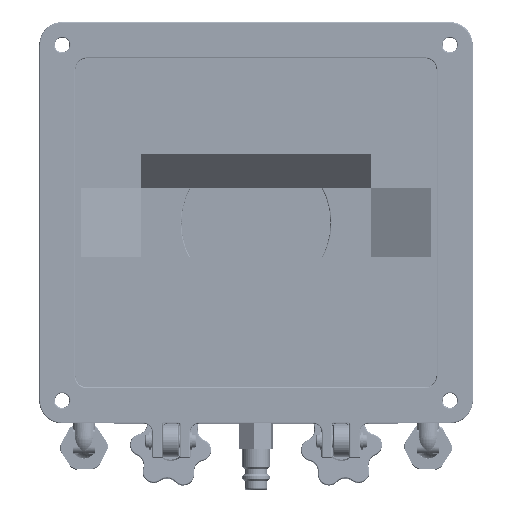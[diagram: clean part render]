
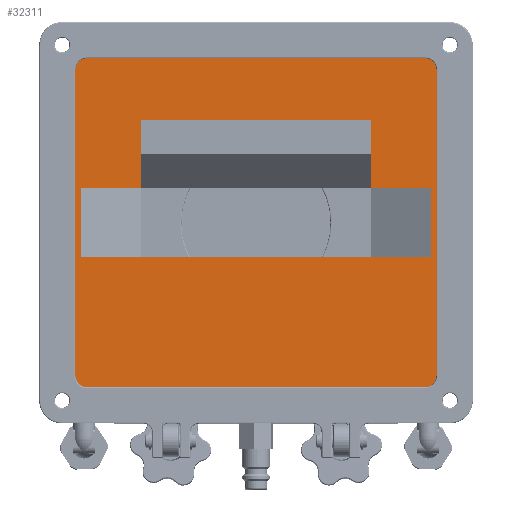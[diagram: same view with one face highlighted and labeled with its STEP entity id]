
A CAD part, front view. The second image highlights one B-rep face of the part: STEP entity #32311.
In plain terms, the highlighted planar face has unit normal (0, -1, 0) as drawn and (0, 1, 0) by its records, which use the part's own axes.
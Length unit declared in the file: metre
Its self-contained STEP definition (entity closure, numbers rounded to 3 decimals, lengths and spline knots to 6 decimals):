
#185 = VECTOR ( 'NONE', #83141, 1. ) ;
#330 = ORIENTED_EDGE ( 'NONE', *, *, #104241, .T. ) ;
#357 = DIRECTION ( 'NONE',  ( 0., 0., -1. ) ) ;
#1579 = ORIENTED_EDGE ( 'NONE', *, *, #102773, .T. ) ;
#1657 = CARTESIAN_POINT ( 'NONE',  ( 0.0787, 0.015, 0.0667 ) ) ;
#2658 = ORIENTED_EDGE ( 'NONE', *, *, #61648, .T. ) ;
#5970 = CARTESIAN_POINT ( 'NONE',  ( 0.0737, 0.015, -0.0667 ) ) ;
#5988 = DIRECTION ( 'NONE',  ( 0., 0., -1. ) ) ;
#6054 = VECTOR ( 'NONE', #47967, 1. ) ;
#7302 = CARTESIAN_POINT ( 'NONE',  ( 0.0502, 0.015, 0.045 ) ) ;
#8457 = CARTESIAN_POINT ( 'NONE',  ( -0.0502, 0.015, 0.015 ) ) ;
#10265 = VERTEX_POINT ( 'NONE', #57871 ) ;
#11173 = LINE ( 'NONE', #68384, #60027 ) ;
#11656 = CARTESIAN_POINT ( 'NONE',  ( -0.0737, 0.015, 0.0717 ) ) ;
#13897 = FACE_BOUND ( 'NONE', #79775, .T. ) ;
#14838 = DIRECTION ( 'NONE',  ( 0., 0., -1. ) ) ;
#15397 = AXIS2_PLACEMENT_3D ( 'NONE', #122961, #64497, #5988 ) ;
#15794 = DIRECTION ( 'NONE',  ( 0., 0., 1. ) ) ;
#22461 = ORIENTED_EDGE ( 'NONE', *, *, #29166, .F. ) ;
#24674 = CARTESIAN_POINT ( 'NONE',  ( -0.076181, 0.015, -0.0667 ) ) ;
#24996 = LINE ( 'NONE', #35601, #125850 ) ;
#26108 = LINE ( 'NONE', #122023, #185 ) ;
#27232 = LINE ( 'NONE', #30252, #76149 ) ;
#27480 = CARTESIAN_POINT ( 'NONE',  ( -0.0502, 0.015, 0.015 ) ) ;
#27553 = PLANE ( 'NONE',  #90800 ) ;
#28936 = DIRECTION ( 'NONE',  ( -1., 0., 0. ) ) ;
#29001 = VERTEX_POINT ( 'NONE', #60853 ) ;
#29166 = EDGE_CURVE ( 'NONE', #54301, #10265, #24996, .T. ) ;
#30252 = CARTESIAN_POINT ( 'NONE',  ( 0.0737, 0.015, -0.0717 ) ) ;
#30294 = CARTESIAN_POINT ( 'NONE',  ( 0.0787, 0.015, -0.0667 ) ) ;
#32311 = ADVANCED_FACE ( 'NONE', ( #13897, #65862 ), #27553, .T. ) ;
#32346 = AXIS2_PLACEMENT_3D ( 'NONE', #117353, #58828, #357 ) ;
#32424 = ORIENTED_EDGE ( 'NONE', *, *, #51022, .F. ) ;
#33436 = EDGE_LOOP ( 'NONE', ( #330, #78887, #45906, #95104, #124937, #86927, #2658, #93016 ) ) ;
#35182 = CARTESIAN_POINT ( 'NONE',  ( 0.076181, 0.015, 0.015 ) ) ;
#35601 = CARTESIAN_POINT ( 'NONE',  ( -0.0502, 0.015, 0.015 ) ) ;
#37375 = DIRECTION ( 'NONE',  ( 0., 0., 1. ) ) ;
#38552 = DIRECTION ( 'NONE',  ( 0., 1., 0. ) ) ;
#40085 = DIRECTION ( 'NONE',  ( -1., 0., 0. ) ) ;
#42467 = EDGE_CURVE ( 'NONE', #94467, #102219, #95060, .T. ) ;
#42784 = CARTESIAN_POINT ( 'NONE',  ( -0.076181, 0.015, -0.015 ) ) ;
#42850 = CARTESIAN_POINT ( 'NONE',  ( 0.0737, 0.015, 0.0717 ) ) ;
#44363 = CARTESIAN_POINT ( 'NONE',  ( 0.0502, 0.015, 0.015 ) ) ;
#45082 = EDGE_CURVE ( 'NONE', #114376, #108120, #95457, .T. ) ;
#45494 = LINE ( 'NONE', #87387, #120377 ) ;
#45906 = ORIENTED_EDGE ( 'NONE', *, *, #45082, .T. ) ;
#46556 = LINE ( 'NONE', #27480, #72559 ) ;
#47862 = EDGE_CURVE ( 'NONE', #61413, #110828, #26108, .T. ) ;
#47967 = DIRECTION ( 'NONE',  ( 0., 0., 1. ) ) ;
#48270 = VECTOR ( 'NONE', #64268, 1. ) ;
#49874 = VECTOR ( 'NONE', #14838, 1. ) ;
#50117 = CARTESIAN_POINT ( 'NONE',  ( -0.0787, 0.015, -0.0667 ) ) ;
#51022 = EDGE_CURVE ( 'NONE', #10265, #113541, #121962, .T. ) ;
#51881 = LINE ( 'NONE', #106479, #6054 ) ;
#54301 = VERTEX_POINT ( 'NONE', #8457 ) ;
#54525 = ORIENTED_EDGE ( 'NONE', *, *, #112545, .F. ) ;
#55311 = ORIENTED_EDGE ( 'NONE', *, *, #95062, .F. ) ;
#56122 = DIRECTION ( 'NONE',  ( 0., 0., -1. ) ) ;
#57871 = CARTESIAN_POINT ( 'NONE',  ( -0.0502, 0.015, 0.045 ) ) ;
#58828 = DIRECTION ( 'NONE',  ( 0., 1., 0. ) ) ;
#59315 = DIRECTION ( 'NONE',  ( 1., 0., 0. ) ) ;
#59984 = EDGE_CURVE ( 'NONE', #117493, #88276, #45494, .T. ) ;
#60027 = VECTOR ( 'NONE', #78181, 1. ) ;
#60853 = CARTESIAN_POINT ( 'NONE',  ( 0.0737, 0.015, -0.0717 ) ) ;
#61413 = VERTEX_POINT ( 'NONE', #44363 ) ;
#61499 = CARTESIAN_POINT ( 'NONE',  ( -0.076181, 0.015, 0.015 ) ) ;
#61648 = EDGE_CURVE ( 'NONE', #70439, #94467, #100865, .T. ) ;
#62001 = EDGE_CURVE ( 'NONE', #108120, #104609, #51881, .T. ) ;
#63140 = AXIS2_PLACEMENT_3D ( 'NONE', #5970, #74300, #15794 ) ;
#63399 = CARTESIAN_POINT ( 'NONE',  ( -0.0737, 0.015, -0.0717 ) ) ;
#64268 = DIRECTION ( 'NONE',  ( 0., 0., -1. ) ) ;
#64497 = DIRECTION ( 'NONE',  ( 0., 1., 0. ) ) ;
#65862 = FACE_OUTER_BOUND ( 'NONE', #33436, .T. ) ;
#66052 = VECTOR ( 'NONE', #56122, 1. ) ;
#68384 = CARTESIAN_POINT ( 'NONE',  ( 0.0737, 0.015, 0.0717 ) ) ;
#68977 = CIRCLE ( 'NONE', #63140, 0.005 ) ;
#69073 = VERTEX_POINT ( 'NONE', #11656 ) ;
#69793 = EDGE_CURVE ( 'NONE', #29001, #114376, #27232, .T. ) ;
#70058 = VECTOR ( 'NONE', #59315, 1. ) ;
#70439 = VERTEX_POINT ( 'NONE', #42850 ) ;
#70844 = ORIENTED_EDGE ( 'NONE', *, *, #59984, .F. ) ;
#72559 = VECTOR ( 'NONE', #115022, 1. ) ;
#74300 = DIRECTION ( 'NONE',  ( 0., 1., 0. ) ) ;
#76149 = VECTOR ( 'NONE', #40085, 1. ) ;
#77371 = LINE ( 'NONE', #112928, #48270 ) ;
#77828 = DIRECTION ( 'NONE',  ( 0., 0., 1. ) ) ;
#78181 = DIRECTION ( 'NONE',  ( 1., 0., 0. ) ) ;
#78752 = CIRCLE ( 'NONE', #80047, 0.005 ) ;
#78887 = ORIENTED_EDGE ( 'NONE', *, *, #69793, .T. ) ;
#79775 = EDGE_LOOP ( 'NONE', ( #55311, #32424, #22461, #54525, #96927, #70844, #1579, #89705 ) ) ;
#80047 = AXIS2_PLACEMENT_3D ( 'NONE', #97010, #38552, #106818 ) ;
#83141 = DIRECTION ( 'NONE',  ( 1., 0., 0. ) ) ;
#86927 = ORIENTED_EDGE ( 'NONE', *, *, #118256, .T. ) ;
#87387 = CARTESIAN_POINT ( 'NONE',  ( -0.0502, 0.015, -0.015 ) ) ;
#88276 = VERTEX_POINT ( 'NONE', #42784 ) ;
#89705 = ORIENTED_EDGE ( 'NONE', *, *, #47862, .F. ) ;
#90800 = AXIS2_PLACEMENT_3D ( 'NONE', #95434, #95864, #37375 ) ;
#93016 = ORIENTED_EDGE ( 'NONE', *, *, #42467, .T. ) ;
#94467 = VERTEX_POINT ( 'NONE', #1657 ) ;
#94526 = CARTESIAN_POINT ( 'NONE',  ( 0.0787, 0.015, 0.0667 ) ) ;
#94664 = EDGE_CURVE ( 'NONE', #123165, #88276, #101811, .T. ) ;
#95060 = LINE ( 'NONE', #94526, #66052 ) ;
#95062 = EDGE_CURVE ( 'NONE', #113541, #61413, #77371, .T. ) ;
#95104 = ORIENTED_EDGE ( 'NONE', *, *, #62001, .T. ) ;
#95434 = CARTESIAN_POINT ( 'NONE',  ( 0.0737, 0.015, -0.0667 ) ) ;
#95457 = CIRCLE ( 'NONE', #15397, 0.005 ) ;
#95864 = DIRECTION ( 'NONE',  ( 0., 1., 0. ) ) ;
#96927 = ORIENTED_EDGE ( 'NONE', *, *, #94664, .T. ) ;
#97010 = CARTESIAN_POINT ( 'NONE',  ( -0.0737, 0.015, 0.0667 ) ) ;
#97774 = CARTESIAN_POINT ( 'NONE',  ( 0.0502, 0.015, 0.045 ) ) ;
#99784 = VECTOR ( 'NONE', #77828, 1. ) ;
#100865 = CIRCLE ( 'NONE', #32346, 0.005 ) ;
#101811 = LINE ( 'NONE', #24674, #49874 ) ;
#102219 = VERTEX_POINT ( 'NONE', #30294 ) ;
#102773 = EDGE_CURVE ( 'NONE', #117493, #110828, #125788, .T. ) ;
#103870 = DIRECTION ( 'NONE',  ( 0., 0., 1. ) ) ;
#104241 = EDGE_CURVE ( 'NONE', #102219, #29001, #68977, .T. ) ;
#104609 = VERTEX_POINT ( 'NONE', #110435 ) ;
#106479 = CARTESIAN_POINT ( 'NONE',  ( -0.0787, 0.015, 0.0667 ) ) ;
#106818 = DIRECTION ( 'NONE',  ( 0., 0., -1. ) ) ;
#108120 = VERTEX_POINT ( 'NONE', #50117 ) ;
#110435 = CARTESIAN_POINT ( 'NONE',  ( -0.0787, 0.015, 0.0667 ) ) ;
#110828 = VERTEX_POINT ( 'NONE', #35182 ) ;
#112545 = EDGE_CURVE ( 'NONE', #123165, #54301, #46556, .T. ) ;
#112928 = CARTESIAN_POINT ( 'NONE',  ( 0.0502, 0.015, 0.015 ) ) ;
#113541 = VERTEX_POINT ( 'NONE', #7302 ) ;
#114376 = VERTEX_POINT ( 'NONE', #63399 ) ;
#115022 = DIRECTION ( 'NONE',  ( 1., 0., 0. ) ) ;
#115864 = EDGE_CURVE ( 'NONE', #104609, #69073, #78752, .T. ) ;
#116690 = CARTESIAN_POINT ( 'NONE',  ( 0.076181, 0.015, -0.0667 ) ) ;
#117353 = CARTESIAN_POINT ( 'NONE',  ( 0.0737, 0.015, 0.0667 ) ) ;
#117493 = VERTEX_POINT ( 'NONE', #117512 ) ;
#117512 = CARTESIAN_POINT ( 'NONE',  ( 0.076181, 0.015, -0.015 ) ) ;
#118256 = EDGE_CURVE ( 'NONE', #69073, #70439, #11173, .T. ) ;
#120377 = VECTOR ( 'NONE', #28936, 1. ) ;
#121962 = LINE ( 'NONE', #97774, #70058 ) ;
#122023 = CARTESIAN_POINT ( 'NONE',  ( -0.0502, 0.015, 0.015 ) ) ;
#122961 = CARTESIAN_POINT ( 'NONE',  ( -0.0737, 0.015, -0.0667 ) ) ;
#123165 = VERTEX_POINT ( 'NONE', #61499 ) ;
#124937 = ORIENTED_EDGE ( 'NONE', *, *, #115864, .T. ) ;
#125788 = LINE ( 'NONE', #116690, #99784 ) ;
#125850 = VECTOR ( 'NONE', #103870, 1. ) ;
